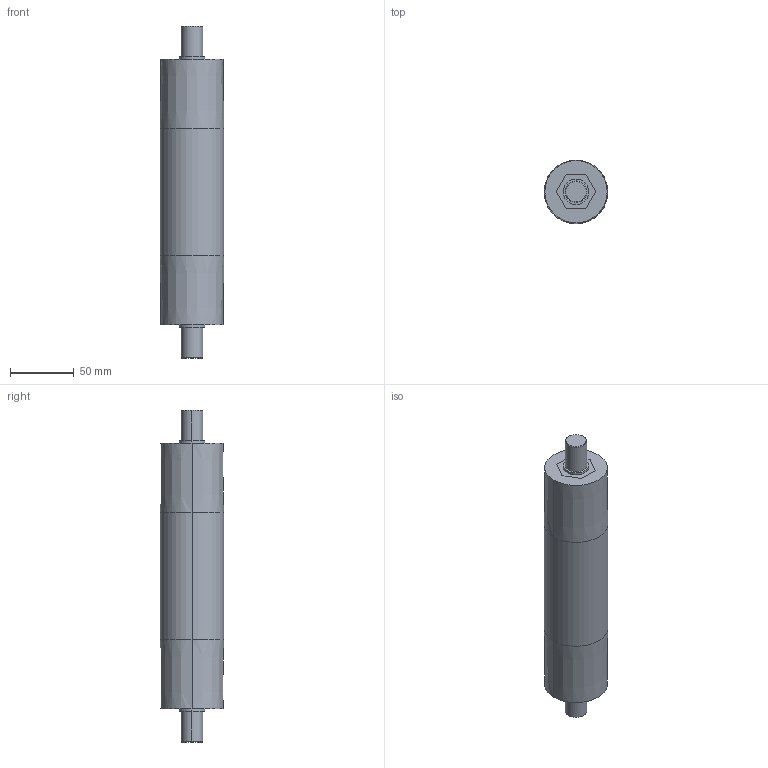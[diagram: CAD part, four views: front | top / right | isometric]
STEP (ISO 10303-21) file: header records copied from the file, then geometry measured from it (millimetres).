
FILE_DESCRIPTION (( 'STEP AP203' ), '1' );
FILE_NAME ('1000.50.00.012.STEP', '2013-01-29T12:13:09', ( 'Alusic' ), ( 'Alusic' ), 'SwSTEP 2.0', 'SolidWorks 2011', '' );
FILE_SCHEMA (( 'CONFIG_CONTROL_DESIGN' ));
Length unit declared in the file: millimetre
Products named in the file (1): 1000.50.00.012
Bounding box: 50 x 50 x 261 mm (x, y, z)
Volume: 418257.2 mm3; surface area: 78309.4 mm2
Topology: 2 solids, 2 shells, 38 faces, 82 edges, 52 vertices
Faces by surface type: plane 20, cylinder 10, cone 8
Entity records: 1109 total; most frequent: DIRECTION 188, CARTESIAN_POINT 173, ORIENTED_EDGE 164, EDGE_CURVE 82, AXIS2_PLACEMENT_3D 67, LINE 54, VECTOR 54, VERTEX_POINT 52
